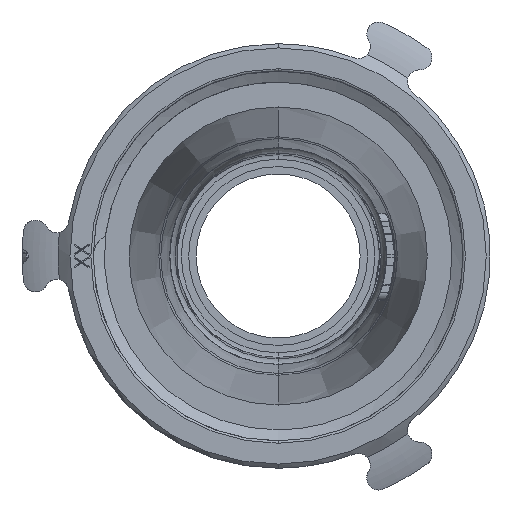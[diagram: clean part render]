
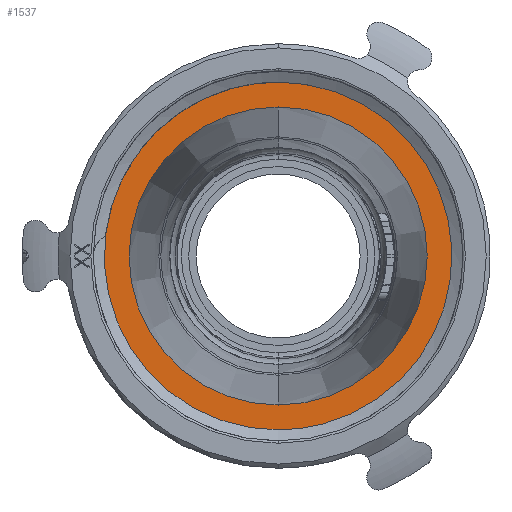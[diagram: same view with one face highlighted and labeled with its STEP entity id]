
A CAD part, left-side view. The second image highlights one B-rep face of the part: STEP entity #1537.
In plain terms, the highlighted planar face has unit normal (-1, 0, 0).
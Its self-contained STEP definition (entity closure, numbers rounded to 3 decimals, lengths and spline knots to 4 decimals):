
#1537 = ADVANCED_FACE ( 'NONE', ( #9816, #9821 ), #95261, .F. ) ;
#5031 = VERTEX_POINT ( 'NONE', #28803 ) ;
#5035 = VERTEX_POINT ( 'NONE', #28805 ) ;
#5037 = VERTEX_POINT ( 'NONE', #28806 ) ;
#5039 = VERTEX_POINT ( 'NONE', #28807 ) ;
#9816 = FACE_OUTER_BOUND ( 'NONE', #100494, .T. ) ;
#9821 = FACE_BOUND ( 'NONE', #100507, .T. ) ;
#15730 = AXIS2_PLACEMENT_3D ( 'NONE', #96905, #96906, #96907 ) ;
#15734 = AXIS2_PLACEMENT_3D ( 'NONE', #96912, #96913, #96914 ) ;
#15738 = AXIS2_PLACEMENT_3D ( 'NONE', #96919, #96920, #96921 ) ;
#15740 = AXIS2_PLACEMENT_3D ( 'NONE', #96922, #96923, #96924 ) ;
#28803 = CARTESIAN_POINT ( 'NONE',  ( -0.1875, 0., 1.25 ) ) ;
#28805 = CARTESIAN_POINT ( 'NONE',  ( -0.1875, 0., -1.25 ) ) ;
#28806 = CARTESIAN_POINT ( 'NONE',  ( -0.1875, 0., -1.6 ) ) ;
#28807 = CARTESIAN_POINT ( 'NONE',  ( -0.1875, 0., 1.6 ) ) ;
#48034 = CIRCLE ( 'NONE', #15730, 1.25 ) ;
#48057 = CIRCLE ( 'NONE', #15734, 1.25 ) ;
#48061 = CIRCLE ( 'NONE', #15740, 1.6 ) ;
#48071 = CIRCLE ( 'NONE', #15738, 1.6 ) ;
#63844 = AXIS2_PLACEMENT_3D ( 'NONE', #95258, #95263, #95264 ) ;
#79692 = ORIENTED_EDGE ( 'NONE', *, *, #107483, .F. ) ;
#79693 = ORIENTED_EDGE ( 'NONE', *, *, #107485, .F. ) ;
#79694 = ORIENTED_EDGE ( 'NONE', *, *, #107480, .T. ) ;
#79695 = ORIENTED_EDGE ( 'NONE', *, *, #107475, .T. ) ;
#95258 = CARTESIAN_POINT ( 'NONE',  ( -0.1875, -1.25, 0. ) ) ;
#95261 = PLANE ( 'NONE',  #63844 ) ;
#95263 = DIRECTION ( 'NONE',  ( 1., 0., 0. ) ) ;
#95264 = DIRECTION ( 'NONE',  ( 0., 0., 1. ) ) ;
#96905 = CARTESIAN_POINT ( 'NONE',  ( -0.1875, 0., 0. ) ) ;
#96906 = DIRECTION ( 'NONE',  ( 1., 0., 0. ) ) ;
#96907 = DIRECTION ( 'NONE',  ( 0., 0., 1. ) ) ;
#96912 = CARTESIAN_POINT ( 'NONE',  ( -0.1875, 0., 0. ) ) ;
#96913 = DIRECTION ( 'NONE',  ( 1., 0., 0. ) ) ;
#96914 = DIRECTION ( 'NONE',  ( 0., 0., 1. ) ) ;
#96919 = CARTESIAN_POINT ( 'NONE',  ( -0.1875, 0., 0. ) ) ;
#96920 = DIRECTION ( 'NONE',  ( 1., 0., 0. ) ) ;
#96921 = DIRECTION ( 'NONE',  ( 0., 0., 1. ) ) ;
#96922 = CARTESIAN_POINT ( 'NONE',  ( -0.1875, 0., 0. ) ) ;
#96923 = DIRECTION ( 'NONE',  ( 1., 0., 0. ) ) ;
#96924 = DIRECTION ( 'NONE',  ( 0., 0., 1. ) ) ;
#100494 = EDGE_LOOP ( 'NONE', ( #79692, #79693 ) ) ;
#100507 = EDGE_LOOP ( 'NONE', ( #79694, #79695 ) ) ;
#107475 = EDGE_CURVE ( 'NONE', #5035, #5031, #48034, .T. ) ;
#107480 = EDGE_CURVE ( 'NONE', #5031, #5035, #48057, .T. ) ;
#107483 = EDGE_CURVE ( 'NONE', #5039, #5037, #48071, .T. ) ;
#107485 = EDGE_CURVE ( 'NONE', #5037, #5039, #48061, .T. ) ;
